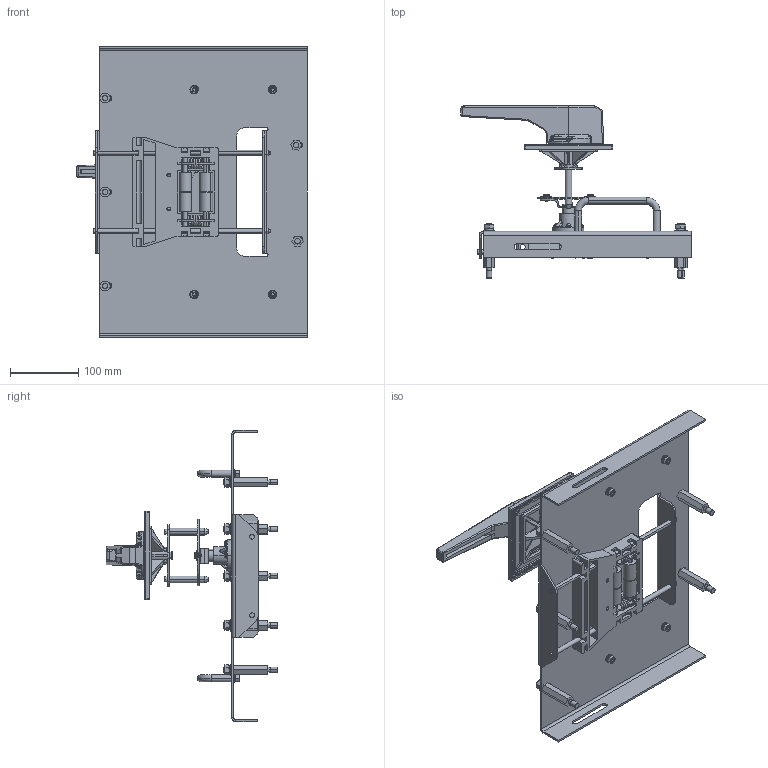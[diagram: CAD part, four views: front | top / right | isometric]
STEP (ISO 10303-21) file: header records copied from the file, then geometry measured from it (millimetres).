
FILE_DESCRIPTION (( 'STEP AP214' ), '1' );
FILE_NAME ('臍55-43 唒籦鍣砎魤鍱.STEP', '2015-06-18T10:55:49', ( 'admin' ), ( '' ), 'SwSTEP 2.0', 'SolidWorks 2012', '' );
FILE_SCHEMA (( 'AUTOMOTIVE_DESIGN' ));
Length unit declared in the file: millimetre
Products named in the file (1): 臍55-43 唒籦鍣砎魤鍱
Bounding box: 337.8 x 252.05 x 426.7 mm (x, y, z)
Volume: 1071044.8 mm3; surface area: 612557.8 mm2
Topology: 95 solids, 95 shells, 2266 faces, 5527 edges, 3462 vertices
Faces by surface type: plane 963, cylinder 866, cone 235, bspline 99, torus 79, sphere 24
Entity records: 103238 total; most frequent: CARTESIAN_POINT 24215, DIRECTION 11158, ORIENTED_EDGE 11010, EDGE_CURVE 5505, AXIS2_PLACEMENT_3D 4269, VERTEX_POINT 3460, LINE 2620, VECTOR 2620
